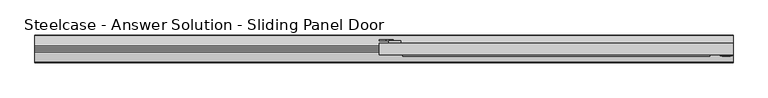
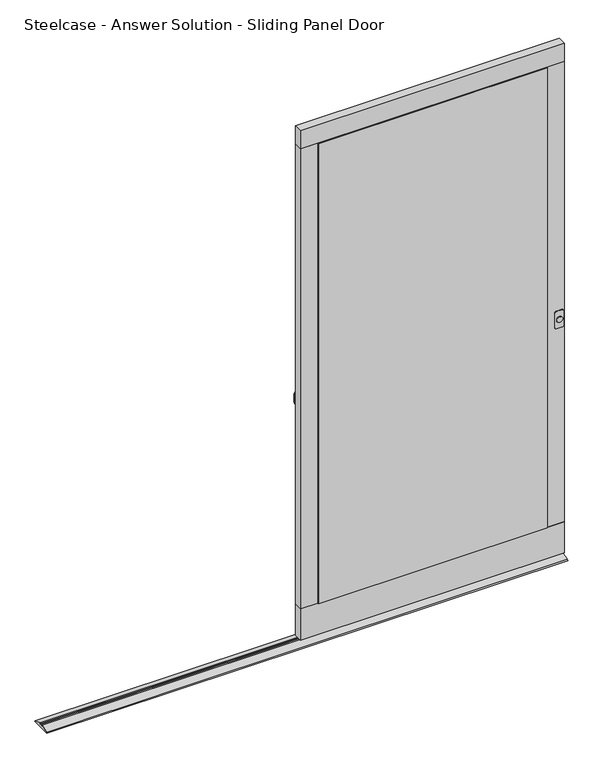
"""IFC4 building model written with IfcOpenShell, lengths in millimetres: furniture geometry."""

from ifc_helpers import new_model, si_unit, point, frame, frame_2d, origin, place, context, project, spatial, polyline, circle_curve, trimmed, segment, composite_curve, outline, extrude, source, transform, mapped, element, save


def steelcase_answer_solution_sliding_panel_door_25a862e7(model_context):
    return source(origin(), model_context, "Body", "SweptSolid", [
        extrude(outline(composite_curve([segment(trimmed(circle_curve(frame_2d((927.0989028, 1835.4278402)), 10.7468772), [point((927.0989028, 1846.1747174))], [point((927.0989028, 1824.680963))], False, "CARTESIAN"), True, "CONTINUOUS"), segment(trimmed(circle_curve(frame_2d((927.0989028, 1835.4278402)), 10.7468772), [point((927.0989028, 1824.680963))], [point((927.0989028, 1846.1747174))], False, "CARTESIAN"), True, "CONTINUOUS")], self_intersect=False)), frame((0.0, -58.27776, 0.0), z_axis=(0.0, 1.0, 0.0), x_axis=(0.0, 0.0, 1.0)), (0.0, 0.0, 1.0), 2.159),
        extrude(outline(composite_curve([segment(polyline([(958.8489028, 927.2675713), (958.8489028, 908.2175713)]), True, "CONTINUOUS"), segment(trimmed(circle_curve(frame_2d((939.7989028, 908.2175713)), 19.05), [point((958.8489028, 908.2175713))], [point((939.7989028, 889.1675713))], False, "CARTESIAN"), True, "CONTINUOUS"), segment(polyline([(939.7989028, 889.1675713), (914.3989028, 889.1675713)]), True, "CONTINUOUS"), segment(trimmed(circle_curve(frame_2d((914.3989028, 908.2175713)), 19.05), [point((914.3989028, 889.1675713))], [point((895.3489028, 908.2175713))], False, "CARTESIAN"), True, "CONTINUOUS"), segment(polyline([(895.3489028, 908.2175713), (895.3489028, 927.2675713), (908.0489028, 927.2675713), (908.0489028, 908.2175713)]), True, "CONTINUOUS"), segment(trimmed(circle_curve(frame_2d((914.3989028, 908.2175713)), 6.35), [point((908.0489028, 908.2175713))], [point((914.3989028, 901.8675713))], True, "CARTESIAN"), True, "CONTINUOUS"), segment(polyline([(914.3989028, 901.8675713), (939.7989028, 901.8675713)]), True, "CONTINUOUS"), segment(trimmed(circle_curve(frame_2d((939.7989028, 908.2175713)), 6.35), [point((939.7989028, 901.8675713))], [point((946.1489028, 908.2175713))], True, "CARTESIAN"), True, "CONTINUOUS"), segment(polyline([(946.1489028, 908.2175713), (946.1489028, 927.2675713), (958.8489028, 927.2675713)]), True, "CONTINUOUS")], self_intersect=False)), frame((0.0, -15.6057635, 0.0), z_axis=(0.0, 1.0, 0.0), x_axis=(0.0, 0.0, 1.0)), (0.0, 0.0, 1.0), 2.032),
        extrude(outline(composite_curve([segment(polyline([(960.7539028, 1845.3735), (960.7539028, 1825.0535)]), True, "CONTINUOUS"), segment(trimmed(circle_curve(frame_2d((954.4039028, 1825.0535)), 6.35), [point((960.7539028, 1825.0535))], [point((954.4039028, 1818.7035))], False, "CARTESIAN"), True, "CONTINUOUS"), segment(polyline([(954.4039028, 1818.7035), (899.7939028, 1818.7035)]), True, "CONTINUOUS"), segment(trimmed(circle_curve(frame_2d((899.7939028, 1825.0535)), 6.35), [point((899.7939028, 1818.7035))], [point((893.4439028, 1825.0535))], False, "CARTESIAN"), True, "CONTINUOUS"), segment(polyline([(893.4439028, 1825.0535), (893.4439028, 1845.3735)]), True, "CONTINUOUS"), segment(trimmed(circle_curve(frame_2d((899.7939028, 1845.3735)), 6.35), [point((893.4439028, 1845.3735))], [point((899.7939028, 1851.7235))], False, "CARTESIAN"), True, "CONTINUOUS"), segment(polyline([(899.7939028, 1851.7235), (954.4039028, 1851.7235)]), True, "CONTINUOUS"), segment(trimmed(circle_curve(frame_2d((954.4039028, 1845.3735)), 6.35), [point((954.4039028, 1851.7235))], [point((960.7539028, 1845.3735))], False, "CARTESIAN"), True, "CONTINUOUS")], self_intersect=False)), frame((0.0, -56.11876, 0.0), z_axis=(0.0, 1.0, 0.0), x_axis=(0.0, 0.0, 1.0)), (0.0, 0.0, 1.0), 2.1589722),
        extrude(outline(polyline([(947.42, -22.2097635), (914.4, -22.2097635), (914.4, -15.6057635), (947.42, -15.6057635), (947.42, -22.2097635)])), frame((0.0, 0.0, 828.673924), z_axis=(0.0, 0.0, 1.0), x_axis=(1.0, 0.0, 0.0)), (0.0, 0.0, 1.0), 196.85),
        extrude(outline(polyline([(1854.2, -53.9597878), (889.0, -53.9597878), (889.0, -22.2097635), (1854.2, -22.2097635), (1854.2, -53.9597878)])), frame((0.0, 0.0, 1915.1589729), z_axis=(0.0, 0.0, 1.0), x_axis=(1.0, 0.0, 0.0)), (0.0, 0.0, 1.0), 69.8499516),
        extrude(outline(polyline([(952.4999031, -53.9597878), (889.0, -53.9597878), (889.0, -22.2097635), (952.4999031, -22.2097635), (952.4999031, -53.9597878)])), frame((0.0, 0.0, 137.1589275), z_axis=(0.0, 0.0, 1.0), x_axis=(1.0, 0.0, 0.0)), (0.0, 0.0, 1.0), 1778.0000454),
        extrude(outline(polyline([(1854.2, -53.9597878), (1790.7000969, -53.9597878), (1790.7000969, -22.2097635), (1854.2, -22.2097635), (1854.2, -53.9597878)])), frame((0.0, 0.0, 137.1589275), z_axis=(0.0, 0.0, 1.0), x_axis=(1.0, 0.0, 0.0)), (0.0, 0.0, 1.0), 1778.0000454),
        extrude(outline(polyline([(1854.2, -53.9597878), (889.0, -53.9597878), (889.0, -22.2097635), (1854.2, -22.2097635), (1854.2, -53.9597878)])), frame((0.0, 0.0, 16.5089245), z_axis=(0.0, 0.0, 1.0), x_axis=(1.0, 0.0, 0.0)), (0.0, 0.0, 1.0), 120.650003),
        extrude(outline(polyline([(1790.7000969, -53.9597878), (1790.7000969, -57.7514894), (952.4999031, -57.7514894), (952.4999031, -53.9597878), (1790.7000969, -53.9597878)])), frame((0.0, 0.0, 137.1589275), z_axis=(0.0, 0.0, 1.0), x_axis=(1.0, 0.0, 0.0)), (0.0, 0.0, 1.0), 1778.0000454),
        extrude(outline(polyline([(-29.8388763, 12.2491055), (-1.9333122, 3.0138476), (0.0, 0.0), (-76.1694786, 0.0), (-74.2361664, 3.0138476), (-46.3306023, 12.2491055), (-46.3306023, 6.2879429), (-39.9806265, 6.2879429), (-39.9806265, 12.6379637), (-36.1889248, 12.6379637), (-36.1889248, 6.2879429), (-29.8388763, 6.2879429), (-29.8388763, 12.2491055)])), frame((-50.8, 0.0, 0.0), z_axis=(1.0, 0.0, 0.0), x_axis=(0.0, 1.0, 0.0)), (0.0, 0.0, 1.0), 1905.0),
    ])


if __name__ == "__main__":
    model = new_model("IFC4")
    model_context = context("Model", 3, world=origin())
    ifc_project = project(units=[si_unit("LENGTHUNIT", "METRE", prefix="MILLI")], contexts=[model_context])
    site = spatial("IfcSite", under=ifc_project)
    building = spatial("IfcBuilding", under=site)
    placement = place(None, origin())
    steelcase_answer_solution_sliding_panel_door_shape = steelcase_answer_solution_sliding_panel_door_25a862e7(model_context)
    element("IfcFurniture", 1, ObjectType="Steelcase - Answer Solution - Sliding Panel Door : 78\" x 36\" - Left Door Handle & Lock", at=placement, inside=building, context=model_context, shape_type="MappedRepresentation", body=[
        mapped(steelcase_answer_solution_sliding_panel_door_shape, transform((0.0, 0.0, 0.0), x_axis=(1.0, 0.0, 0.0), y_axis=(0.0, 1.0, 0.0), z_axis=(0.0, 0.0, 1.0))),
    ])
    save(model, "model.ifc")
